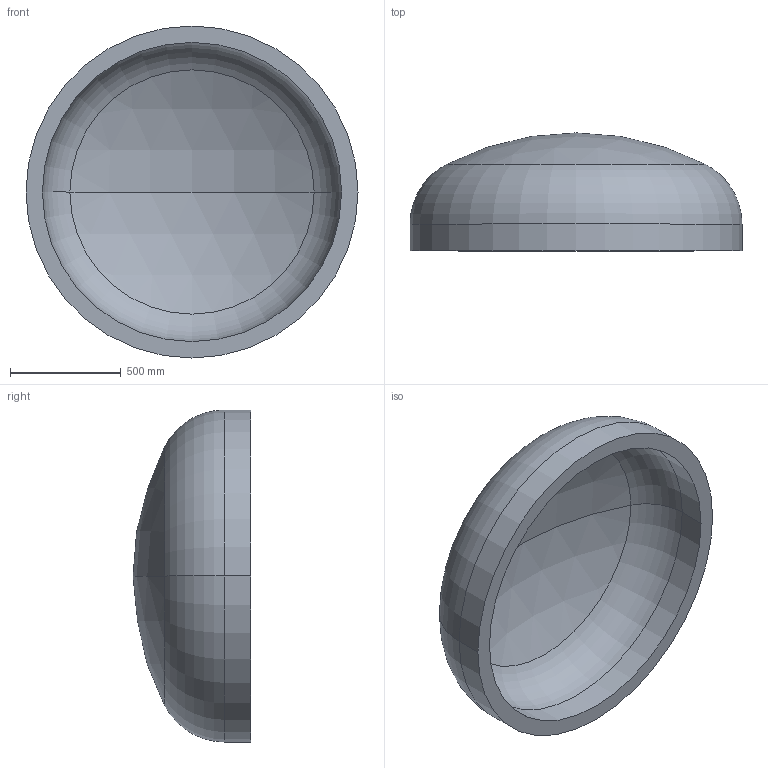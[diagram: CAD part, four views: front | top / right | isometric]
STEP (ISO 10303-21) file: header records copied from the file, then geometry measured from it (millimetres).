
FILE_DESCRIPTION (( 'STEP AP203' ), '1' );
FILE_NAME ('DIN 28013 Korbbogenform_-_Boden DIN 28013 - 1500 x 120 - I - s=74.step', '2016-07-01T10:53:21', ( '' ), ( '' ), 'SwSTEP 2.0', 'SolidWorks 2013', '' );
FILE_SCHEMA (( 'CONFIG_CONTROL_DESIGN' ));
Length unit declared in the file: millimetre
Products named in the file (1): DIN 28013 Korbbogenform_-_Boden DIN 28013 - 1500 x 120 - I - s=74
Bounding box: 1500 x 532.62 x 1500 mm (x, y, z)
Volume: 209612661.9 mm3; surface area: 6008188 mm2
Topology: 1 solids, 1 shells, 13 faces, 24 edges, 14 vertices
Faces by surface type: torus 4, cylinder 4, sphere 4, plane 1
Entity records: 407 total; most frequent: DIRECTION 72, CARTESIAN_POINT 52, ORIENTED_EDGE 48, AXIS2_PLACEMENT_3D 34, EDGE_CURVE 24, CIRCLE 20, VERTEX_POINT 14, EDGE_LOOP 14
